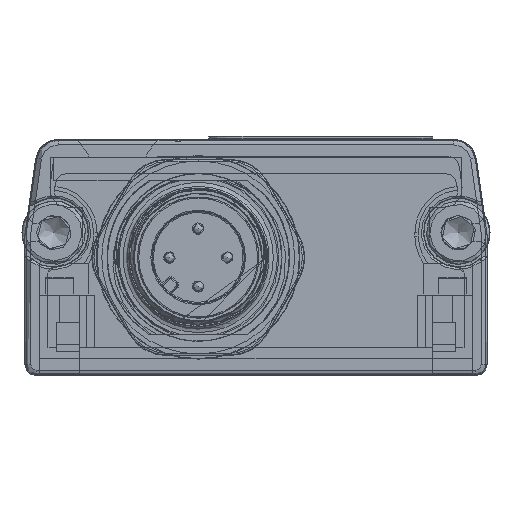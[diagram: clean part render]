
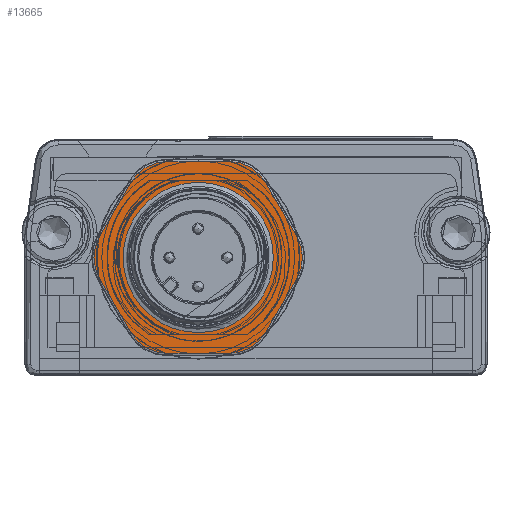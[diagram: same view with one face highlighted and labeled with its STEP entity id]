
A CAD part, front view. The second image highlights one B-rep face of the part: STEP entity #13665.
In plain terms, the highlighted planar face has unit normal (0, -1, 0).
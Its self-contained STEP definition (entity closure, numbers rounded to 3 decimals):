
#191=FACE_BOUND('',#2307,.T.);
#608=CIRCLE('',#14591,3.6);
#613=CIRCLE('',#14598,3.6);
#616=CIRCLE('',#14603,3.6);
#619=CIRCLE('',#14608,3.6);
#623=CIRCLE('',#14614,3.6);
#627=CIRCLE('',#14620,3.6);
#628=CIRCLE('',#14628,6.5);
#629=CIRCLE('',#14629,6.5);
#1032=PLANE('',#14627);
#1554=FACE_OUTER_BOUND('',#2306,.T.);
#2306=EDGE_LOOP('',(#10211,#10212,#10213,#10214,#10215,#10216,#10217,#10218,
#10219,#10220,#10221,#10222));
#2307=EDGE_LOOP('',(#10223,#10224));
#3485=LINE('',#24077,#4544);
#3486=LINE('',#24085,#4545);
#3487=LINE('',#24093,#4546);
#3488=LINE('',#24101,#4547);
#3490=LINE('',#24113,#4549);
#3491=LINE('',#24121,#4550);
#4544=VECTOR('',#16769,10.);
#4545=VECTOR('',#16780,10.);
#4546=VECTOR('',#16791,10.);
#4547=VECTOR('',#16802,10.);
#4549=VECTOR('',#16816,10.);
#4550=VECTOR('',#16827,10.);
#5820=VERTEX_POINT('',#24066);
#5821=VERTEX_POINT('',#24068);
#5823=VERTEX_POINT('',#24074);
#5824=VERTEX_POINT('',#24079);
#5825=VERTEX_POINT('',#24083);
#5826=VERTEX_POINT('',#24087);
#5827=VERTEX_POINT('',#24091);
#5828=VERTEX_POINT('',#24095);
#5829=VERTEX_POINT('',#24099);
#5830=VERTEX_POINT('',#24103);
#5832=VERTEX_POINT('',#24109);
#5834=VERTEX_POINT('',#24115);
#5836=VERTEX_POINT('',#24134);
#5837=VERTEX_POINT('',#24135);
#7391=EDGE_CURVE('',#5820,#5821,#608,.T.);
#7396=EDGE_CURVE('',#5821,#5823,#3485,.T.);
#7398=EDGE_CURVE('',#5823,#5824,#613,.T.);
#7400=EDGE_CURVE('',#5824,#5825,#3486,.T.);
#7402=EDGE_CURVE('',#5825,#5826,#616,.T.);
#7404=EDGE_CURVE('',#5826,#5827,#3487,.T.);
#7406=EDGE_CURVE('',#5827,#5828,#619,.T.);
#7408=EDGE_CURVE('',#5828,#5829,#3488,.T.);
#7411=EDGE_CURVE('',#5829,#5830,#623,.T.);
#7414=EDGE_CURVE('',#5830,#5832,#3490,.T.);
#7417=EDGE_CURVE('',#5832,#5834,#627,.T.);
#7418=EDGE_CURVE('',#5834,#5820,#3491,.T.);
#7425=EDGE_CURVE('',#5836,#5837,#628,.T.);
#7426=EDGE_CURVE('',#5837,#5836,#629,.T.);
#10211=ORIENTED_EDGE('',*,*,#7391,.F.);
#10212=ORIENTED_EDGE('',*,*,#7418,.F.);
#10213=ORIENTED_EDGE('',*,*,#7417,.F.);
#10214=ORIENTED_EDGE('',*,*,#7414,.F.);
#10215=ORIENTED_EDGE('',*,*,#7411,.F.);
#10216=ORIENTED_EDGE('',*,*,#7408,.F.);
#10217=ORIENTED_EDGE('',*,*,#7406,.F.);
#10218=ORIENTED_EDGE('',*,*,#7404,.F.);
#10219=ORIENTED_EDGE('',*,*,#7402,.F.);
#10220=ORIENTED_EDGE('',*,*,#7400,.F.);
#10221=ORIENTED_EDGE('',*,*,#7398,.F.);
#10222=ORIENTED_EDGE('',*,*,#7396,.F.);
#10223=ORIENTED_EDGE('',*,*,#7425,.F.);
#10224=ORIENTED_EDGE('',*,*,#7426,.F.);
#13665=ADVANCED_FACE('',(#1554,#191),#1032,.T.);
#14591=AXIS2_PLACEMENT_3D('',#24069,#16758,#16759);
#14598=AXIS2_PLACEMENT_3D('',#24081,#16774,#16775);
#14603=AXIS2_PLACEMENT_3D('',#24089,#16785,#16786);
#14608=AXIS2_PLACEMENT_3D('',#24097,#16796,#16797);
#14614=AXIS2_PLACEMENT_3D('',#24107,#16809,#16810);
#14620=AXIS2_PLACEMENT_3D('',#24119,#16823,#16824);
#14627=AXIS2_PLACEMENT_3D('',#24133,#16844,#16845);
#14628=AXIS2_PLACEMENT_3D('',#24136,#16846,#16847);
#14629=AXIS2_PLACEMENT_3D('',#24137,#16848,#16849);
#16758=DIRECTION('center_axis',(0.,1.,0.));
#16759=DIRECTION('ref_axis',(-0.5,0.,-0.866));
#16769=DIRECTION('',(-0.5,0.,0.866));
#16774=DIRECTION('center_axis',(0.,1.,0.));
#16775=DIRECTION('ref_axis',(-1.,0.,0.));
#16780=DIRECTION('',(0.5,0.,0.866));
#16785=DIRECTION('center_axis',(0.,1.,0.));
#16786=DIRECTION('ref_axis',(-0.5,0.,0.866));
#16791=DIRECTION('',(1.,0.,0.));
#16796=DIRECTION('center_axis',(0.,1.,0.));
#16797=DIRECTION('ref_axis',(0.5,0.,0.866));
#16802=DIRECTION('',(0.5,0.,-0.866));
#16809=DIRECTION('center_axis',(0.,1.,0.));
#16810=DIRECTION('ref_axis',(1.,0.,0.));
#16816=DIRECTION('',(-0.5,0.,-0.866));
#16823=DIRECTION('center_axis',(0.,1.,0.));
#16824=DIRECTION('ref_axis',(0.5,0.,-0.866));
#16827=DIRECTION('',(-1.,0.,0.));
#16844=DIRECTION('center_axis',(0.,-1.,0.));
#16845=DIRECTION('ref_axis',(-1.,0.,0.));
#16846=DIRECTION('center_axis',(0.,-1.,0.));
#16847=DIRECTION('ref_axis',(0.,0.,
1.));
#16848=DIRECTION('center_axis',(0.,-1.,0.));
#16849=DIRECTION('ref_axis',(0.,0.,
1.));
#24066=CARTESIAN_POINT('',(-46.428,-12.9,10.329));
#24068=CARTESIAN_POINT('',(-49.546,-12.9,12.129));
#24069=CARTESIAN_POINT('Origin',(-46.428,-12.9,13.929));
#24074=CARTESIAN_POINT('',(-52.26,-12.9,16.829));
#24077=CARTESIAN_POINT('',(-52.13,-12.9,16.604));
#24079=CARTESIAN_POINT('',(-52.26,-12.9,20.429));
#24081=CARTESIAN_POINT('Origin',(-49.142,-12.9,18.629));
#24083=CARTESIAN_POINT('',(-49.546,-12.9,25.129));
#24085=CARTESIAN_POINT('',(-49.676,-12.9,24.904));
#24087=CARTESIAN_POINT('',(-46.428,-12.9,26.929));
#24089=CARTESIAN_POINT('Origin',(-46.428,-12.9,23.329));
#24091=CARTESIAN_POINT('',(-41.001,-12.9,26.929));
#24093=CARTESIAN_POINT('',(-41.261,-12.9,26.929));
#24095=CARTESIAN_POINT('',(-37.884,-12.9,25.129));
#24097=CARTESIAN_POINT('Origin',(-41.001,-12.9,23.329));
#24099=CARTESIAN_POINT('',(-35.17,-12.9,20.429));
#24101=CARTESIAN_POINT('',(-35.3,-12.9,20.654));
#24103=CARTESIAN_POINT('',(-35.17,-12.9,16.829));
#24107=CARTESIAN_POINT('Origin',(-38.288,-12.9,18.629));
#24109=CARTESIAN_POINT('',(-37.884,-12.9,12.129));
#24113=CARTESIAN_POINT('',(-37.754,-12.9,12.354));
#24115=CARTESIAN_POINT('',(-41.001,-12.9,10.329));
#24119=CARTESIAN_POINT('Origin',(-41.001,-12.9,13.929));
#24121=CARTESIAN_POINT('',(-46.169,-12.9,10.329));
#24133=CARTESIAN_POINT('Origin',(-43.715,-12.9,18.629));
#24134=CARTESIAN_POINT('',(-43.715,-12.9,12.129));
#24135=CARTESIAN_POINT('',(-50.215,-12.9,18.629));
#24136=CARTESIAN_POINT('Origin',(-43.715,-12.9,18.629));
#24137=CARTESIAN_POINT('Origin',(-43.715,-12.9,18.629));
